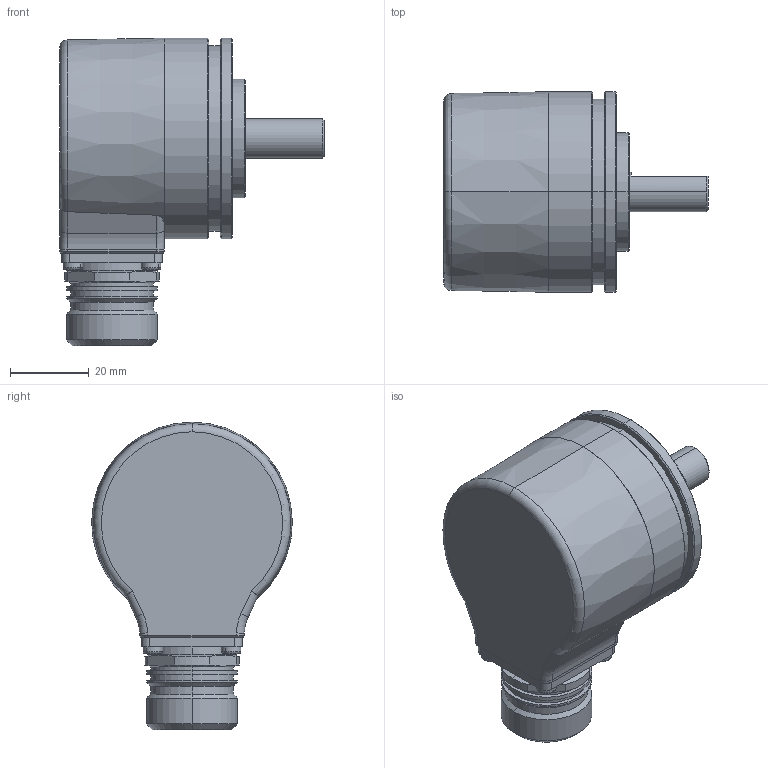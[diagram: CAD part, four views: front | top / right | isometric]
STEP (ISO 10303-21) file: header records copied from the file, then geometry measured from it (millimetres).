
FILE_DESCRIPTION (( 'STEP AP214' ), '1' );
FILE_NAME ('5000.63X8.XXXX.STEP', '2007-08-01T07:49:14', ( 'DanneckerS' ), ( ' ' ), 'SwSTEP 2.0', 'SolidWorks 2007', '' );
FILE_SCHEMA (( 'AUTOMOTIVE_DESIGN' ));
Length unit declared in the file: millimetre
Products named in the file (1): 5000.63X8.XXXX
Bounding box: 67 x 50.8 x 77.9 mm (x, y, z)
Surface area: 18466.8 mm2 (no closed solid volume)
Topology: 0 solids, 29 shells, 332 faces, 854 edges, 547 vertices
Faces by surface type: cylinder 117, plane 104, torus 42, cone 33, sphere 32, bspline 4
Entity records: 13872 total; most frequent: DIRECTION 1968, CARTESIAN_POINT 1916, ORIENTED_EDGE 1524, AXIS2_PLACEMENT_3D 843, EDGE_CURVE 830, VERTEX_POINT 547, CIRCLE 514, EDGE_LOOP 386
